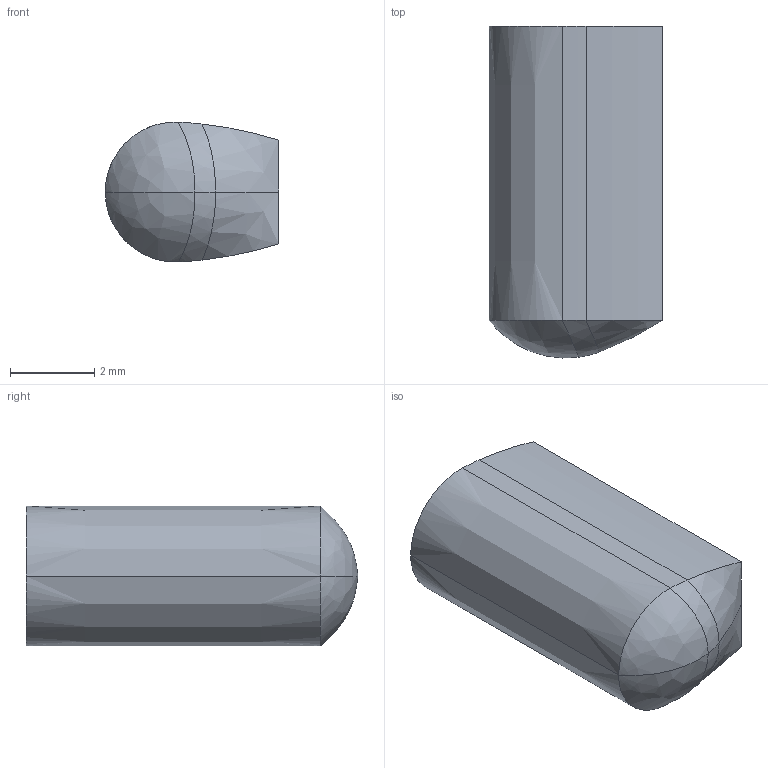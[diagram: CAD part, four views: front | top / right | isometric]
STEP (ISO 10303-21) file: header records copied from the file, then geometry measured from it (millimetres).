
FILE_DESCRIPTION((''),'2;1');
FILE_NAME('DE14-20','2004-03-24T',('tmeister'),(''),'PRO/ENGINEER BY PARAMETRIC TECHNOLOGY CORPORATION, 2002390','PRO/ENGINEER BY PARAMETRIC TECHNOLOGY CORPORATION, 2002390','');
FILE_SCHEMA(('CONFIG_CONTROL_DESIGN'));
Length unit declared in the file: millimetre
Products named in the file (1): DE14-20
Bounding box: 4.13 x 7.9 x 3.33 mm (x, y, z)
Surface area: 103.1 mm2 (no closed solid volume)
Topology: 0 solids, 1 shells, 13 faces, 31 edges, 17 vertices
Faces by surface type: bspline 6, cylinder 4, extrusion 2, plane 1
Entity records: 550 total; most frequent: CARTESIAN_POINT 261, ORIENTED_EDGE 51, DIRECTION 38, EDGE_CURVE 29, VERTEX_POINT 17, AXIS2_PLACEMENT_3D 13, EDGE_LOOP 13, FACE_OUTER_BOUND 13
